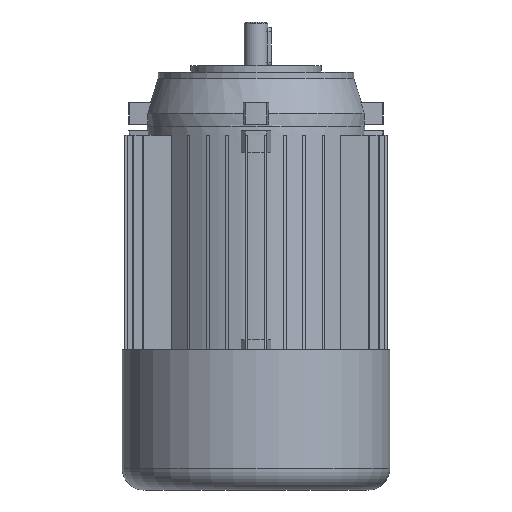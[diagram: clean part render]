
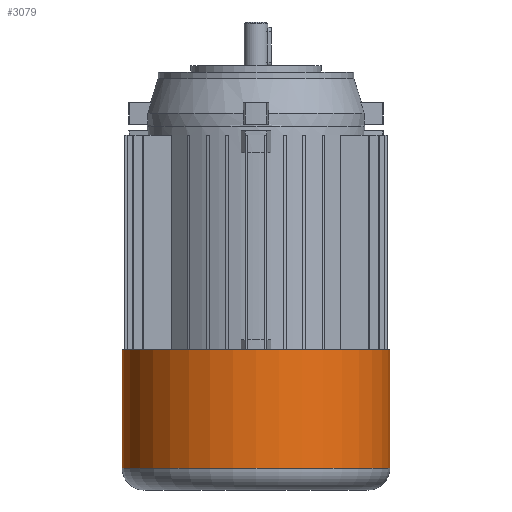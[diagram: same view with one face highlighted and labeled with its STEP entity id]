
A CAD part, front view. The second image highlights one B-rep face of the part: STEP entity #3079.
In plain terms, the highlighted cylindrical face has radius 61.5 mm (diameter 123 mm), a partial arc.
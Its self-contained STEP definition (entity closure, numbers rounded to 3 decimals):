
#521 = DIRECTION ( 'NONE',  ( 0., 0., 1. ) ) ;
#775 = AXIS2_PLACEMENT_3D ( 'NONE', #12236, #13341, #3916 ) ;
#789 = AXIS2_PLACEMENT_3D ( 'NONE', #12170, #14608, #2861 ) ;
#1095 = EDGE_CURVE ( 'NONE', #14622, #3204, #1329, .T. ) ;
#1329 = LINE ( 'NONE', #1384, #5466 ) ;
#1384 = CARTESIAN_POINT ( 'NONE',  ( 61.5, 0., 22.524 ) ) ;
#1385 = LINE ( 'NONE', #6371, #12005 ) ;
#1647 = CARTESIAN_POINT ( 'NONE',  ( 61.5, 0., -47.5 ) ) ;
#2252 = ORIENTED_EDGE ( 'NONE', *, *, #5731, .F. ) ;
#2598 = DIRECTION ( 'NONE',  ( 1., 0., 0. ) ) ;
#2861 = DIRECTION ( 'NONE',  ( 1., 0., 0. ) ) ;
#3079 = ADVANCED_FACE ( 'NONE', ( #12362 ), #7529, .T. ) ;
#3204 = VERTEX_POINT ( 'NONE', #1647 ) ;
#3649 = CARTESIAN_POINT ( 'NONE',  ( -61.5, 0., -102. ) ) ;
#3916 = DIRECTION ( 'NONE',  ( 1., 0., 0. ) ) ;
#3941 = ORIENTED_EDGE ( 'NONE', *, *, #4209, .T. ) ;
#4209 = EDGE_CURVE ( 'NONE', #13461, #14622, #5555, .T. ) ;
#4530 = EDGE_LOOP ( 'NONE', ( #6123, #3941, #6351, #2252 ) ) ;
#4975 = CARTESIAN_POINT ( 'NONE',  ( 61.5, 0., -102. ) ) ;
#5015 = DIRECTION ( 'NONE',  ( 0., 0., 1. ) ) ;
#5016 = DIRECTION ( 'NONE',  ( 0., 0., 1. ) ) ;
#5323 = VERTEX_POINT ( 'NONE', #11352 ) ;
#5466 = VECTOR ( 'NONE', #5016, 1000. ) ;
#5555 = CIRCLE ( 'NONE', #775, 61.5 ) ;
#5731 = EDGE_CURVE ( 'NONE', #5323, #3204, #13901, .T. ) ;
#6123 = ORIENTED_EDGE ( 'NONE', *, *, #13166, .F. ) ;
#6351 = ORIENTED_EDGE ( 'NONE', *, *, #1095, .T. ) ;
#6371 = CARTESIAN_POINT ( 'NONE',  ( -61.5, 0., 22.524 ) ) ;
#7529 = CYLINDRICAL_SURFACE ( 'NONE', #14427, 61.5 ) ;
#11352 = CARTESIAN_POINT ( 'NONE',  ( -61.5, 0., -47.5 ) ) ;
#12005 = VECTOR ( 'NONE', #521, 1000. ) ;
#12170 = CARTESIAN_POINT ( 'NONE',  ( 0., 0., -47.5 ) ) ;
#12236 = CARTESIAN_POINT ( 'NONE',  ( 0., 0., -102. ) ) ;
#12362 = FACE_OUTER_BOUND ( 'NONE', #4530, .T. ) ;
#13166 = EDGE_CURVE ( 'NONE', #13461, #5323, #1385, .T. ) ;
#13167 = CARTESIAN_POINT ( 'NONE',  ( 0., 0., 22.524 ) ) ;
#13341 = DIRECTION ( 'NONE',  ( 0., 0., 1. ) ) ;
#13461 = VERTEX_POINT ( 'NONE', #3649 ) ;
#13901 = CIRCLE ( 'NONE', #789, 61.5 ) ;
#14427 = AXIS2_PLACEMENT_3D ( 'NONE', #13167, #5015, #2598 ) ;
#14608 = DIRECTION ( 'NONE',  ( 0., 0., 1. ) ) ;
#14622 = VERTEX_POINT ( 'NONE', #4975 ) ;
